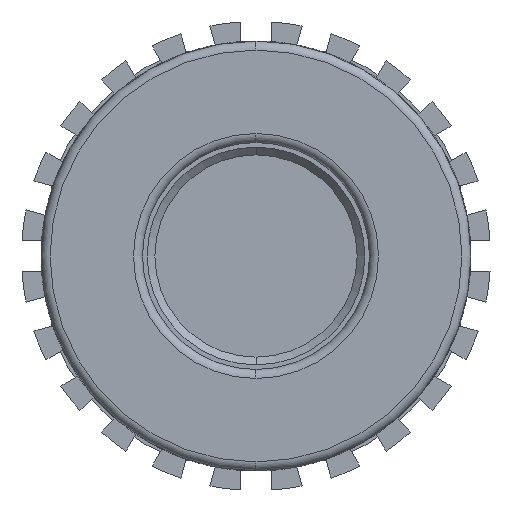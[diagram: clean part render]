
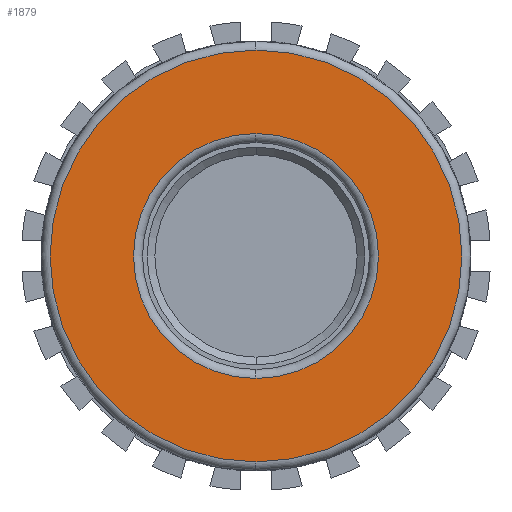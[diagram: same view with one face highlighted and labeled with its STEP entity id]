
A CAD part, left-side view. The second image highlights one B-rep face of the part: STEP entity #1879.
In plain terms, the highlighted planar face has unit normal (-1, 0, 0).
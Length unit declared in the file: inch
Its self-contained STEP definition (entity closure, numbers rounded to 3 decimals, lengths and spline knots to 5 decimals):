
#199 = CARTESIAN_POINT ( 'NONE',  ( -4.3277, 0., -1.13025 ) ) ;
#225 = CARTESIAN_POINT ( 'NONE',  ( -4.3277, 0., 0.67238 ) ) ;
#549 = DIRECTION ( 'NONE',  ( 1., 0., 0. ) ) ;
#550 = CARTESIAN_POINT ( 'NONE',  ( -4.3277, 0., 0. ) ) ;
#552 = PLANE ( 'NONE',  #841 ) ;
#554 = DIRECTION ( 'NONE',  ( 0., 0., -1. ) ) ;
#605 = AXIS2_PLACEMENT_3D ( 'NONE', #1893, #1894, #1895 ) ;
#611 = AXIS2_PLACEMENT_3D ( 'NONE', #1900, #1901, #1902 ) ;
#841 = AXIS2_PLACEMENT_3D ( 'NONE', #550, #549, #554 ) ;
#1180 = CIRCLE ( 'NONE', #605, 0.67238 ) ;
#1184 = CIRCLE ( 'NONE', #611, 1.13025 ) ;
#1272 = CIRCLE ( 'NONE', #2010, 0.67238 ) ;
#1304 = CIRCLE ( 'NONE', #2019, 1.13025 ) ;
#1726 = FACE_BOUND ( 'NONE', #2549, .T. ) ;
#1733 = FACE_OUTER_BOUND ( 'NONE', #4737, .T. ) ;
#1879 = ADVANCED_FACE ( 'NONE', ( #1726, #1733 ), #552, .F. ) ;
#1893 = CARTESIAN_POINT ( 'NONE',  ( -4.3277, 0., 0. ) ) ;
#1894 = DIRECTION ( 'NONE',  ( 1., 0., 0. ) ) ;
#1895 = DIRECTION ( 'NONE',  ( 0., 0., -1. ) ) ;
#1900 = CARTESIAN_POINT ( 'NONE',  ( -4.3277, 0., 0. ) ) ;
#1901 = DIRECTION ( 'NONE',  ( -1., 0., 0. ) ) ;
#1902 = DIRECTION ( 'NONE',  ( 0., 0., -1. ) ) ;
#2010 = AXIS2_PLACEMENT_3D ( 'NONE', #3003, #3004, #3005 ) ;
#2019 = AXIS2_PLACEMENT_3D ( 'NONE', #3065, #3066, #3067 ) ;
#2549 = EDGE_LOOP ( 'NONE', ( #4646, #4647 ) ) ;
#2770 = VERTEX_POINT ( 'NONE', #4806 ) ;
#2773 = VERTEX_POINT ( 'NONE', #4809 ) ;
#3003 = CARTESIAN_POINT ( 'NONE',  ( -4.3277, 0., 0. ) ) ;
#3004 = DIRECTION ( 'NONE',  ( 1., 0., 0. ) ) ;
#3005 = DIRECTION ( 'NONE',  ( 0., 0., -1. ) ) ;
#3065 = CARTESIAN_POINT ( 'NONE',  ( -4.3277, 0., 0. ) ) ;
#3066 = DIRECTION ( 'NONE',  ( -1., 0., 0. ) ) ;
#3067 = DIRECTION ( 'NONE',  ( 0., 0., -1. ) ) ;
#3941 = EDGE_CURVE ( 'NONE', #2770, #4333, #1180, .T. ) ;
#3944 = EDGE_CURVE ( 'NONE', #2773, #4324, #1184, .T. ) ;
#3998 = EDGE_CURVE ( 'NONE', #4333, #2770, #1272, .T. ) ;
#4021 = EDGE_CURVE ( 'NONE', #4324, #2773, #1304, .T. ) ;
#4324 = VERTEX_POINT ( 'NONE', #199 ) ;
#4333 = VERTEX_POINT ( 'NONE', #225 ) ;
#4646 = ORIENTED_EDGE ( 'NONE', *, *, #3941, .T. ) ;
#4647 = ORIENTED_EDGE ( 'NONE', *, *, #3998, .T. ) ;
#4648 = ORIENTED_EDGE ( 'NONE', *, *, #4021, .T. ) ;
#4649 = ORIENTED_EDGE ( 'NONE', *, *, #3944, .T. ) ;
#4737 = EDGE_LOOP ( 'NONE', ( #4648, #4649 ) ) ;
#4806 = CARTESIAN_POINT ( 'NONE',  ( -4.3277, 0., -0.67237 ) ) ;
#4809 = CARTESIAN_POINT ( 'NONE',  ( -4.3277, 0., 1.13025 ) ) ;
